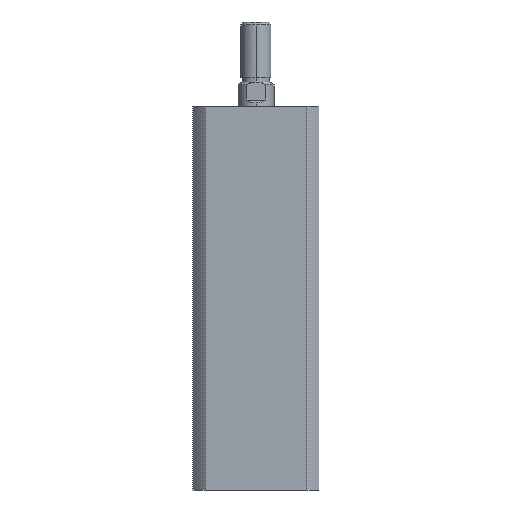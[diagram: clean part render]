
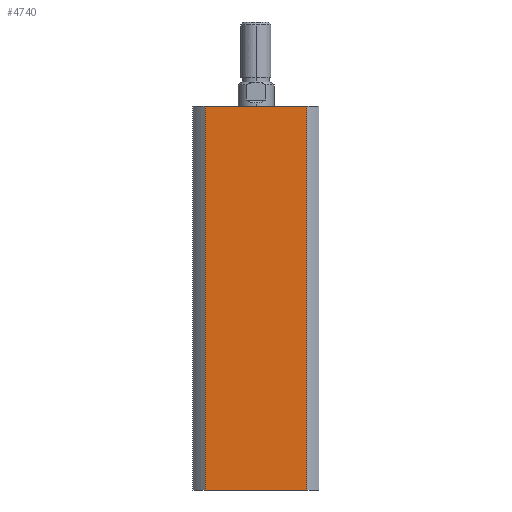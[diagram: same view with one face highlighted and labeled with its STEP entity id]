
A CAD part, left-side view. The second image highlights one B-rep face of the part: STEP entity #4740.
In plain terms, the highlighted planar face has unit normal (-1, 0, 0).
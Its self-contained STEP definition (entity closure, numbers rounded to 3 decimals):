
#376 = LINE ( 'NONE', #2056, #381 ) ;
#381 = VECTOR ( 'NONE', #2050, 1000. ) ;
#392 = LINE ( 'NONE', #2075, #395 ) ;
#394 = LINE ( 'NONE', #2077, #397 ) ;
#395 = VECTOR ( 'NONE', #2076, 1000. ) ;
#397 = VECTOR ( 'NONE', #2078, 1000. ) ;
#762 = DIRECTION ( 'NONE',  ( 0., -1., 0. ) ) ;
#766 = CARTESIAN_POINT ( 'NONE',  ( -21., 21., 0. ) ) ;
#1363 = LINE ( 'NONE', #766, #1365 ) ;
#1365 = VECTOR ( 'NONE', #762, 1000. ) ;
#1416 = FACE_OUTER_BOUND ( 'NONE', #1621, .T. ) ;
#1621 = EDGE_LOOP ( 'NONE', ( #4911, #4912, #4913, #4914 ) ) ;
#1783 = VERTEX_POINT ( 'NONE', #3883 ) ;
#1784 = VERTEX_POINT ( 'NONE', #3884 ) ;
#1787 = VERTEX_POINT ( 'NONE', #3887 ) ;
#1809 = VERTEX_POINT ( 'NONE', #3909 ) ;
#2050 = DIRECTION ( 'NONE',  ( 0., -1., 0. ) ) ;
#2056 = CARTESIAN_POINT ( 'NONE',  ( -21., 21., 128. ) ) ;
#2075 = CARTESIAN_POINT ( 'NONE',  ( -21., -16.971, 128. ) ) ;
#2076 = DIRECTION ( 'NONE',  ( 0., 0., -1. ) ) ;
#2077 = CARTESIAN_POINT ( 'NONE',  ( -21., 16.971, 128. ) ) ;
#2078 = DIRECTION ( 'NONE',  ( 0., 0., 1. ) ) ;
#3195 = EDGE_CURVE ( 'NONE', #1783, #1809, #376, .T. ) ;
#3203 = EDGE_CURVE ( 'NONE', #1809, #1787, #392, .T. ) ;
#3204 = EDGE_CURVE ( 'NONE', #1784, #1783, #394, .T. ) ;
#3570 = CARTESIAN_POINT ( 'NONE',  ( -21., 21., 128. ) ) ;
#3574 = PLANE ( 'NONE',  #4150 ) ;
#3576 = DIRECTION ( 'NONE',  ( 1., 0., 0. ) ) ;
#3577 = DIRECTION ( 'NONE',  ( 0., 1., 0. ) ) ;
#3883 = CARTESIAN_POINT ( 'NONE',  ( -21., 16.971, 128. ) ) ;
#3884 = CARTESIAN_POINT ( 'NONE',  ( -21., 16.971, 0. ) ) ;
#3887 = CARTESIAN_POINT ( 'NONE',  ( -21., -16.971, 0. ) ) ;
#3909 = CARTESIAN_POINT ( 'NONE',  ( -21., -16.971, 128. ) ) ;
#4150 = AXIS2_PLACEMENT_3D ( 'NONE', #3570, #3576, #3577 ) ;
#4690 = EDGE_CURVE ( 'NONE', #1784, #1787, #1363, .T. ) ;
#4740 = ADVANCED_FACE ( 'NONE', ( #1416 ), #3574, .F. ) ;
#4911 = ORIENTED_EDGE ( 'NONE', *, *, #3203, .F. ) ;
#4912 = ORIENTED_EDGE ( 'NONE', *, *, #3195, .F. ) ;
#4913 = ORIENTED_EDGE ( 'NONE', *, *, #3204, .F. ) ;
#4914 = ORIENTED_EDGE ( 'NONE', *, *, #4690, .T. ) ;
